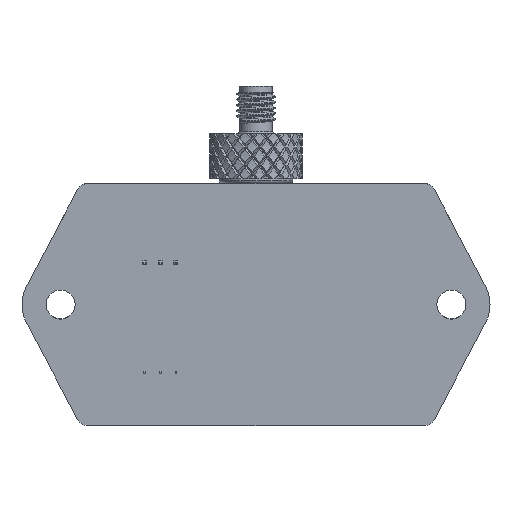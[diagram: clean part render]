
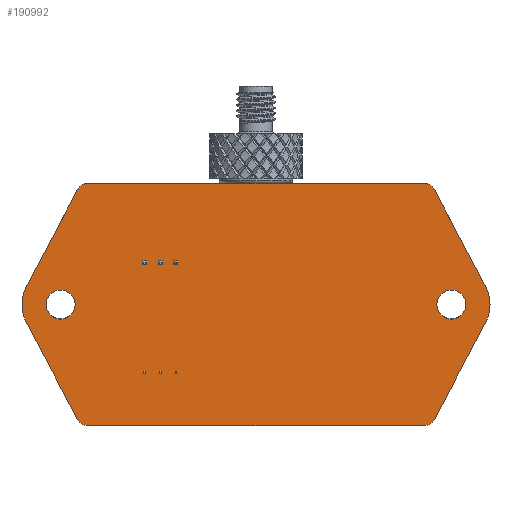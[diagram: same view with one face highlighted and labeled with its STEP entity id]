
A CAD part, front view. The second image highlights one B-rep face of the part: STEP entity #190992.
In plain terms, the highlighted planar face has unit normal (0, -1, -0.018).
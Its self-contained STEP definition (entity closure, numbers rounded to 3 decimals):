
#4440 = DIRECTION ( 'NONE',  ( 0., -0.017, 1. ) ) ;
#6813 = DIRECTION ( 'NONE',  ( 0.466, -0.015, 0.885 ) ) ;
#11596 = CIRCLE ( 'NONE', #212269, 2.362 ) ;
#11689 = DIRECTION ( 'NONE',  ( 0., -1., -0.017 ) ) ;
#15163 = DIRECTION ( 'NONE',  ( 0., -0.017, 1. ) ) ;
#19473 = DIRECTION ( 'NONE',  ( 1., 0., 0. ) ) ;
#19974 = EDGE_LOOP ( 'NONE', ( #236596, #182115 ) ) ;
#22195 = CARTESIAN_POINT ( 'NONE',  ( -54.306, 9.818, -17.226 ) ) ;
#25210 = FACE_BOUND ( 'NONE', #19974, .T. ) ;
#25530 = ORIENTED_EDGE ( 'NONE', *, *, #279373, .T. ) ;
#25787 = DIRECTION ( 'NONE',  ( 0., -1., -0.017 ) ) ;
#26794 = EDGE_CURVE ( 'NONE', #80768, #115615, #87847, .T. ) ;
#26893 = VECTOR ( 'NONE', #6813, 1000. ) ;
#27211 = CARTESIAN_POINT ( 'NONE',  ( -113.373, 9.474, 2.456 ) ) ;
#32079 = CARTESIAN_POINT ( 'NONE',  ( -49.823, 9.474, 2.456 ) ) ;
#34273 = AXIS2_PLACEMENT_3D ( 'NONE', #254948, #279769, #282670 ) ;
#39644 = VERTEX_POINT ( 'NONE', #280623 ) ;
#39765 = CARTESIAN_POINT ( 'NONE',  ( -54.306, 9.818, -17.226 ) ) ;
#41994 = VERTEX_POINT ( 'NONE', #163583 ) ;
#42860 = FACE_BOUND ( 'NONE', #248084, .T. ) ;
#48017 = ORIENTED_EDGE ( 'NONE', *, *, #250651, .T. ) ;
#48603 = EDGE_CURVE ( 'NONE', #237639, #91384, #11596, .T. ) ;
#48759 = EDGE_CURVE ( 'NONE', #106540, #202672, #109595, .T. ) ;
#49156 = CARTESIAN_POINT ( 'NONE',  ( -52.609, 9.149, 21.114 ) ) ;
#49449 = CARTESIAN_POINT ( 'NONE',  ( -110.638, 9.8, -16.202 ) ) ;
#53431 = LINE ( 'NONE', #49156, #233335 ) ;
#53672 = DIRECTION ( 'NONE',  ( 0., 1., 0.017 ) ) ;
#54667 = ORIENTED_EDGE ( 'NONE', *, *, #65844, .T. ) ;
#58082 = AXIS2_PLACEMENT_3D ( 'NONE', #237285, #126138, #15163 ) ;
#62098 = CARTESIAN_POINT ( 'NONE',  ( -49.873, 9.516, 0.094 ) ) ;
#65095 = ORIENTED_EDGE ( 'NONE', *, *, #237749, .T. ) ;
#65844 = EDGE_CURVE ( 'NONE', #41994, #274570, #261878, .T. ) ;
#68655 = CARTESIAN_POINT ( 'NONE',  ( -113.373, 9.516, 0.094 ) ) ;
#70722 = CARTESIAN_POINT ( 'NONE',  ( -108.941, 9.784, -15.309 ) ) ;
#78463 = CARTESIAN_POINT ( 'NONE',  ( -49.873, 9.474, 2.456 ) ) ;
#79046 = EDGE_CURVE ( 'NONE', #91384, #237639, #116827, .T. ) ;
#79415 = CIRCLE ( 'NONE', #163128, 2.362 ) ;
#80325 = CARTESIAN_POINT ( 'NONE',  ( -113.373, 9.474, 2.456 ) ) ;
#80768 = VERTEX_POINT ( 'NONE', #138861 ) ;
#85315 = CARTESIAN_POINT ( 'NONE',  ( -44.312, 9.525, -0.445 ) ) ;
#87847 = CIRCLE ( 'NONE', #93068, 6.228 ) ;
#88012 = EDGE_CURVE ( 'NONE', #274570, #126363, #258319, .T. ) ;
#88122 = PLANE ( 'NONE',  #117208 ) ;
#91384 = VERTEX_POINT ( 'NONE', #199344 ) ;
#93068 = AXIS2_PLACEMENT_3D ( 'NONE', #164962, #274711, #228008 ) ;
#96872 = AXIS2_PLACEMENT_3D ( 'NONE', #32079, #97837, #4440 ) ;
#97504 = CARTESIAN_POINT ( 'NONE',  ( -49.873, 9.474, 2.456 ) ) ;
#97837 = DIRECTION ( 'NONE',  ( 0., -1., -0.017 ) ) ;
#102934 = EDGE_CURVE ( 'NONE', #126363, #229460, #182084, .T. ) ;
#103106 = EDGE_CURVE ( 'NONE', #115615, #153936, #233230, .T. ) ;
#104277 = VERTEX_POINT ( 'NONE', #133501 ) ;
#106139 = CARTESIAN_POINT ( 'NONE',  ( -108.941, 9.164, 20.22 ) ) ;
#106217 = VECTOR ( 'NONE', #172276, 1000. ) ;
#106403 = ORIENTED_EDGE ( 'NONE', *, *, #26794, .T. ) ;
#106540 = VERTEX_POINT ( 'NONE', #218840 ) ;
#109595 = CIRCLE ( 'NONE', #272985, 1.918 ) ;
#109800 = ORIENTED_EDGE ( 'NONE', *, *, #112662, .T. ) ;
#112662 = EDGE_CURVE ( 'NONE', #200881, #104277, #53431, .T. ) ;
#113157 = CARTESIAN_POINT ( 'NONE',  ( -118.935, 9.525, -0.445 ) ) ;
#115615 = VERTEX_POINT ( 'NONE', #113157 ) ;
#116827 = CIRCLE ( 'NONE', #154139, 2.362 ) ;
#117208 = AXIS2_PLACEMENT_3D ( 'NONE', #156657, #247350, #19473 ) ;
#125629 = EDGE_CURVE ( 'NONE', #104277, #39644, #216835, .T. ) ;
#126138 = DIRECTION ( 'NONE',  ( 0., -1., -0.017 ) ) ;
#126363 = VERTEX_POINT ( 'NONE', #253509 ) ;
#129818 = ORIENTED_EDGE ( 'NONE', *, *, #48603, .T. ) ;
#133501 = CARTESIAN_POINT ( 'NONE',  ( -52.609, 9.149, 21.114 ) ) ;
#138861 = CARTESIAN_POINT ( 'NONE',  ( -118.935, 9.424, 5.356 ) ) ;
#140658 = CARTESIAN_POINT ( 'NONE',  ( -44.312, 9.424, 5.356 ) ) ;
#141554 = VERTEX_POINT ( 'NONE', #68655 ) ;
#144235 = CARTESIAN_POINT ( 'NONE',  ( -113.373, 9.433, 4.818 ) ) ;
#144547 = DIRECTION ( 'NONE',  ( 0., -0.017, 1. ) ) ;
#146145 = CARTESIAN_POINT ( 'NONE',  ( -54.306, 9.131, 22.138 ) ) ;
#149200 = VECTOR ( 'NONE', #267595, 1000. ) ;
#153936 = VERTEX_POINT ( 'NONE', #49449 ) ;
#154139 = AXIS2_PLACEMENT_3D ( 'NONE', #97504, #188001, #277285 ) ;
#156657 = CARTESIAN_POINT ( 'NONE',  ( -54.306, 9.164, 20.22 ) ) ;
#163128 = AXIS2_PLACEMENT_3D ( 'NONE', #80325, #11689, #144547 ) ;
#163583 = CARTESIAN_POINT ( 'NONE',  ( -108.941, 9.818, -17.226 ) ) ;
#164962 = CARTESIAN_POINT ( 'NONE',  ( -113.424, 9.474, 2.456 ) ) ;
#167785 = ORIENTED_EDGE ( 'NONE', *, *, #102934, .T. ) ;
#169410 = CARTESIAN_POINT ( 'NONE',  ( -98.782, 8.756, 43.631 ) ) ;
#172276 = DIRECTION ( 'NONE',  ( -0.466, 0.015, -0.885 ) ) ;
#177372 = DIRECTION ( 'NONE',  ( 0., -0.017, 1. ) ) ;
#180025 = FACE_OUTER_BOUND ( 'NONE', #209179, .T. ) ;
#180252 = DIRECTION ( 'NONE',  ( 0., -1., -0.017 ) ) ;
#182084 = LINE ( 'NONE', #268487, #26893 ) ;
#182115 = ORIENTED_EDGE ( 'NONE', *, *, #237319, .F. ) ;
#185482 = VECTOR ( 'NONE', #214191, 1000. ) ;
#187093 = DIRECTION ( 'NONE',  ( -1., 0., 0. ) ) ;
#188001 = DIRECTION ( 'NONE',  ( 0., 1., 0.017 ) ) ;
#189427 = DIRECTION ( 'NONE',  ( 0., -0.017, 1. ) ) ;
#190992 = ADVANCED_FACE ( 'NONE', ( #42860, #25210, #180025 ), #88122, .F. ) ;
#194231 = DIRECTION ( 'NONE',  ( 0., -0.017, 1. ) ) ;
#199344 = CARTESIAN_POINT ( 'NONE',  ( -49.873, 9.433, 4.818 ) ) ;
#200881 = VERTEX_POINT ( 'NONE', #140658 ) ;
#202672 = VERTEX_POINT ( 'NONE', #278882 ) ;
#209179 = EDGE_LOOP ( 'NONE', ( #266158, #25530, #220368, #48017, #106403, #251662, #65095, #54667, #261726, #167785, #250570, #109800 ) ) ;
#210533 = LINE ( 'NONE', #146145, #262943 ) ;
#211412 = CIRCLE ( 'NONE', #244187, 1.918 ) ;
#212269 = AXIS2_PLACEMENT_3D ( 'NONE', #78463, #53672, #189427 ) ;
#214191 = DIRECTION ( 'NONE',  ( 0.466, 0.015, -0.885 ) ) ;
#216835 = CIRCLE ( 'NONE', #58082, 1.918 ) ;
#218840 = CARTESIAN_POINT ( 'NONE',  ( -108.941, 9.131, 22.138 ) ) ;
#220368 = ORIENTED_EDGE ( 'NONE', *, *, #48759, .T. ) ;
#222879 = CIRCLE ( 'NONE', #96872, 6.228 ) ;
#225452 = CIRCLE ( 'NONE', #230223, 2.362 ) ;
#228008 = DIRECTION ( 'NONE',  ( 0., -0.017, 1. ) ) ;
#229460 = VERTEX_POINT ( 'NONE', #85315 ) ;
#230223 = AXIS2_PLACEMENT_3D ( 'NONE', #27211, #25787, #194231 ) ;
#231695 = DIRECTION ( 'NONE',  ( -0.466, -0.015, 0.885 ) ) ;
#231867 = EDGE_CURVE ( 'NONE', #239388, #141554, #79415, .T. ) ;
#233230 = LINE ( 'NONE', #253750, #185482 ) ;
#233335 = VECTOR ( 'NONE', #231695, 1000. ) ;
#236596 = ORIENTED_EDGE ( 'NONE', *, *, #231867, .F. ) ;
#237285 = CARTESIAN_POINT ( 'NONE',  ( -54.306, 9.164, 20.22 ) ) ;
#237319 = EDGE_CURVE ( 'NONE', #141554, #239388, #225452, .T. ) ;
#237639 = VERTEX_POINT ( 'NONE', #62098 ) ;
#237698 = DIRECTION ( 'NONE',  ( 0., -0.017, 1. ) ) ;
#237749 = EDGE_CURVE ( 'NONE', #153936, #41994, #211412, .T. ) ;
#239388 = VERTEX_POINT ( 'NONE', #144235 ) ;
#241062 = LINE ( 'NONE', #169410, #106217 ) ;
#244187 = AXIS2_PLACEMENT_3D ( 'NONE', #70722, #180252, #177372 ) ;
#247350 = DIRECTION ( 'NONE',  ( 0., 1., 0.017 ) ) ;
#248084 = EDGE_LOOP ( 'NONE', ( #263314, #129818 ) ) ;
#250570 = ORIENTED_EDGE ( 'NONE', *, *, #265663, .T. ) ;
#250651 = EDGE_CURVE ( 'NONE', #202672, #80768, #241062, .T. ) ;
#251662 = ORIENTED_EDGE ( 'NONE', *, *, #103106, .T. ) ;
#253509 = CARTESIAN_POINT ( 'NONE',  ( -52.609, 9.8, -16.202 ) ) ;
#253750 = CARTESIAN_POINT ( 'NONE',  ( -113.429, 9.707, -10.901 ) ) ;
#254948 = CARTESIAN_POINT ( 'NONE',  ( -54.306, 9.784, -15.309 ) ) ;
#258319 = CIRCLE ( 'NONE', #34273, 1.918 ) ;
#259665 = DIRECTION ( 'NONE',  ( 0., -1., -0.017 ) ) ;
#261726 = ORIENTED_EDGE ( 'NONE', *, *, #88012, .T. ) ;
#261878 = LINE ( 'NONE', #39765, #149200 ) ;
#262943 = VECTOR ( 'NONE', #187093, 1000. ) ;
#263314 = ORIENTED_EDGE ( 'NONE', *, *, #79046, .T. ) ;
#265663 = EDGE_CURVE ( 'NONE', #229460, #200881, #222879, .T. ) ;
#266158 = ORIENTED_EDGE ( 'NONE', *, *, #125629, .T. ) ;
#267595 = DIRECTION ( 'NONE',  ( 1., 0., 0. ) ) ;
#268487 = CARTESIAN_POINT ( 'NONE',  ( -37.961, 9.314, 11.617 ) ) ;
#272985 = AXIS2_PLACEMENT_3D ( 'NONE', #106139, #259665, #237698 ) ;
#274570 = VERTEX_POINT ( 'NONE', #22195 ) ;
#274711 = DIRECTION ( 'NONE',  ( 0., -1., -0.017 ) ) ;
#277285 = DIRECTION ( 'NONE',  ( 0., -0.017, 1. ) ) ;
#278882 = CARTESIAN_POINT ( 'NONE',  ( -110.638, 9.149, 21.114 ) ) ;
#279373 = EDGE_CURVE ( 'NONE', #39644, #106540, #210533, .T. ) ;
#279769 = DIRECTION ( 'NONE',  ( 0., -1., -0.017 ) ) ;
#280623 = CARTESIAN_POINT ( 'NONE',  ( -54.306, 9.131, 22.138 ) ) ;
#282670 = DIRECTION ( 'NONE',  ( 0., -0.017, 1. ) ) ;
